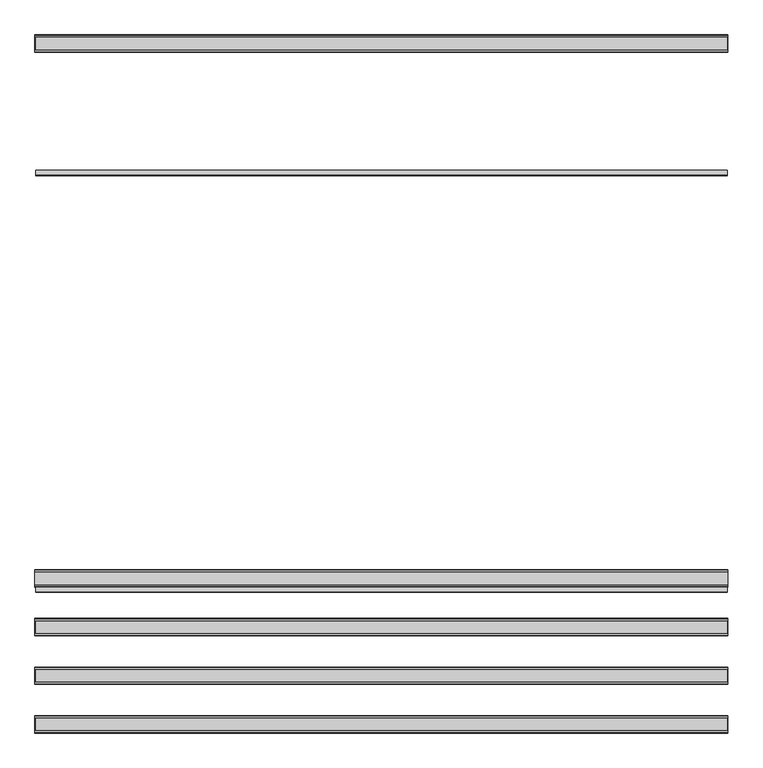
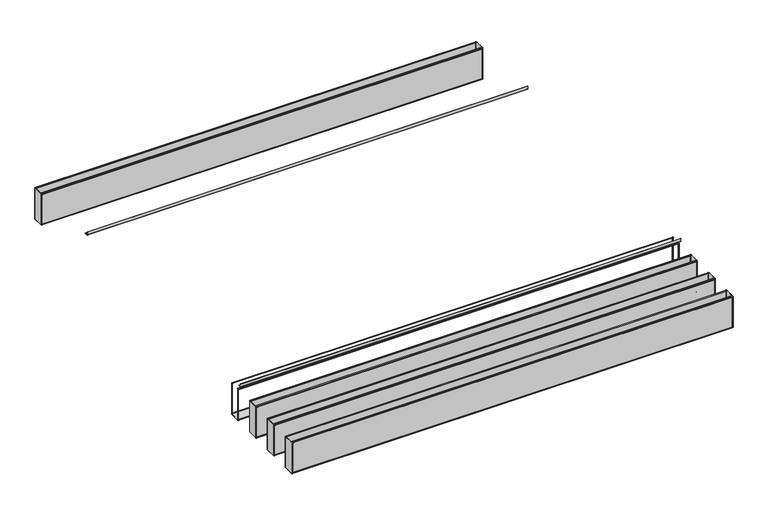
"""IFC4 building model written with IfcOpenShell, lengths in millimetres: proxy geometry, durlum_POLYLAM : durlum_POLYLAM 100."""

from ifc_helpers import new_model, si_unit, point, frame, frame_2d, origin, place, context, project, spatial, polyline, circle_curve, trimmed, segment, composite_curve, outline, extrude, source, transform, mapped, element, save
from ifc_brep_helpers import plane_surface, cylinder_surface, advanced_brep


def generic_models_2188c257(model_context):
    return source(origin(), model_context, "Body", "SolidModel", [
        advanced_brep(
        [(1995.0, -1072.0, 2016.9), (1995.0, -1082.0, 2016.9), (1995.0, -1082.0, 2015.9), (1995.0, -1071.0, 2015.9), (1995.0, -1071.0, 1717.9), (1995.0, -1169.0, 1717.9), (1995.0, -1169.0, 2015.8155735), (1995.0, -1158.0, 2015.8155735), (1995.0, -1158.0, 2016.9), (1995.0, -1168.0, 2016.9), (1995.0, -1170.0, 2014.9), (1995.0, -1170.0, 1718.9), (1995.0, -1168.0, 1716.9), (1995.0, -1072.0, 1716.9), (1995.0, -1070.0, 1718.9), (1995.0, -1070.0, 2014.9), (-1995.0, -1072.0, 2016.9), (-1995.0, -1070.0, 2014.9), (-1995.0, -1070.0, 1718.9), (-1995.0, -1072.0, 1716.9), (-1995.0, -1168.0, 1716.9), (-1995.0, -1170.0, 1718.9), (-1995.0, -1170.0, 2014.9), (-1995.0, -1168.0, 2016.9), (-1995.0, -1158.0, 2016.9), (-1995.0, -1158.0, 2015.8155735), (-1995.0, -1169.0, 2015.8155735), (-1995.0, -1169.0, 1717.9), (-1995.0, -1071.0, 1717.9), (-1995.0, -1071.0, 2015.9), (-1995.0, -1082.0, 2015.9), (-1995.0, -1082.0, 2016.9), (-1986.5, -1071.0, 2008.4), (1986.5, -1071.0, 2008.4), (1986.5, -1071.0, 1725.4), (-1986.5, -1071.0, 1725.4), (1986.5, -1169.0, 2008.4), (-1986.5, -1169.0, 2008.4), (-1986.5, -1169.0, 1725.4), (1986.5, -1169.0, 1725.4), (-1986.5, -1170.0, 2008.4), (1986.5, -1170.0, 2008.4), (1986.5, -1170.0, 1725.4), (-1986.5, -1170.0, 1725.4), (1986.5, -1070.0, 2008.4), (-1986.5, -1070.0, 2008.4), (-1986.5, -1070.0, 1725.4), (1986.5, -1070.0, 1725.4)],
        [
            (0, 1),
            (1, 2),
            (2, 3),
            (3, 4),
            (4, 5),
            (5, 6),
            (6, 7),
            (7, 8),
            (8, 9),
            (9, 10, circle_curve(frame((1995.0, -1168.0, 2014.9), z_axis=(1.0, 0.0, 0.0), x_axis=(0.0, 1.0, 0.0)), 2.0)),
            (10, 11),
            (11, 12, circle_curve(frame((1995.0, -1168.0, 1718.9), z_axis=(1.0, 0.0, 0.0), x_axis=(0.0, 1.0, 0.0)), 2.0)),
            (12, 13),
            (13, 14, circle_curve(frame((1995.0, -1072.0, 1718.9), z_axis=(1.0, 0.0, 0.0), x_axis=(0.0, 1.0, 0.0)), 2.0)),
            (14, 15),
            (15, 0, circle_curve(frame((1995.0, -1072.0, 2014.9), z_axis=(1.0, 0.0, 0.0), x_axis=(0.0, 1.0, 0.0)), 2.0)),
            (16, 17, circle_curve(frame((-1995.0, -1072.0, 2014.9), z_axis=(-1.0, 0.0, 0.0), x_axis=(0.0, 1.0, 0.0)), 2.0)),
            (17, 18),
            (18, 19, circle_curve(frame((-1995.0, -1072.0, 1718.9), z_axis=(-1.0, 0.0, 0.0), x_axis=(0.0, 1.0, 0.0)), 2.0)),
            (19, 20),
            (20, 21, circle_curve(frame((-1995.0, -1168.0, 1718.9), z_axis=(-1.0, 0.0, 0.0), x_axis=(0.0, 1.0, 0.0)), 2.0)),
            (21, 22),
            (22, 23, circle_curve(frame((-1995.0, -1168.0, 2014.9), z_axis=(-1.0, 0.0, 0.0), x_axis=(0.0, 1.0, 0.0)), 2.0)),
            (23, 24),
            (24, 25),
            (25, 26),
            (26, 27),
            (27, 28),
            (28, 29),
            (29, 30),
            (30, 31),
            (31, 16),
            (0, 16),
            (31, 1),
            (30, 2),
            (29, 3),
            (28, 4),
            (32, 33),
            (33, 34),
            (34, 35),
            (35, 32),
            (27, 5),
            (26, 6),
            (36, 37),
            (37, 38),
            (38, 39),
            (39, 36),
            (25, 7),
            (24, 8),
            (23, 9),
            (10, 22),
            (21, 11),
            (40, 41),
            (41, 42),
            (42, 43),
            (43, 40),
            (12, 20),
            (19, 13),
            (14, 18),
            (17, 15),
            (44, 45),
            (45, 46),
            (46, 47),
            (47, 44),
            (44, 33),
            (32, 45),
            (36, 41),
            (40, 37),
            (35, 46),
            (43, 38),
            (34, 47),
            (42, 39),
        ],
        [
            plane_surface(frame((1995.0, -1082.0, 2016.9), z_axis=(1.0, 0.0, 0.0), x_axis=(0.0, -1.0, 0.0))),
            plane_surface(frame((-1995.0, -1082.0, 2016.9), z_axis=(-1.0, 0.0, 0.0), x_axis=(0.0, 1.0, 0.0))),
            plane_surface(frame((1995.0, -1072.0, 2016.9), z_axis=(0.0, 0.0, 1.0), x_axis=(-1.0, 0.0, 0.0))),
            plane_surface(frame((1995.0, -1082.0, 2016.9), z_axis=(0.0, -1.0, 0.0), x_axis=(-1.0, 0.0, 0.0))),
            plane_surface(frame((1995.0, -1082.0, 2015.9), z_axis=(0.0, 0.0, -1.0), x_axis=(-1.0, 0.0, 0.0))),
            plane_surface(frame((1995.0, -1071.0, 2015.9), z_axis=(0.0, -1.0, 0.0), x_axis=(-1.0, 0.0, 0.0))),
            plane_surface(frame((1995.0, -1071.0, 1717.9), z_axis=(0.0, 0.0, 1.0), x_axis=(-1.0, 0.0, 0.0))),
            plane_surface(frame((1995.0, -1169.0, 1717.9), z_axis=(0.0, 1.0, 0.0), x_axis=(-1.0, 0.0, 0.0))),
            plane_surface(frame((1995.0, -1169.0, 2015.8155735), z_axis=(0.0, 0.0, -1.0), x_axis=(-1.0, 0.0, 0.0))),
            plane_surface(frame((1995.0, -1158.0, 2015.8155735), z_axis=(0.0, 1.0, 0.0), x_axis=(-1.0, 0.0, 0.0))),
            plane_surface(frame((1995.0, -1158.0, 2016.9), z_axis=(0.0, 0.0, 1.0), x_axis=(-1.0, 0.0, 0.0))),
            plane_surface(frame((1995.0, -1170.0, 2014.9), z_axis=(0.0, -1.0, 0.0), x_axis=(-1.0, 0.0, 0.0))),
            plane_surface(frame((1995.0, -1168.0, 1716.9), z_axis=(0.0, 0.0, -1.0), x_axis=(-1.0, 0.0, 0.0))),
            plane_surface(frame((1995.0, -1070.0, 1718.9), z_axis=(0.0, 1.0, 0.0), x_axis=(-1.0, 0.0, 0.0))),
            cylinder_surface(frame((-1995.0, -1168.0, 2014.9), z_axis=(1.0, 0.0, 0.0), x_axis=(0.0, 1.0, 0.0)), 2.0),
            cylinder_surface(frame((-1995.0, -1168.0, 1718.9), z_axis=(1.0, 0.0, 0.0), x_axis=(0.0, 1.0, 0.0)), 2.0),
            cylinder_surface(frame((-1995.0, -1072.0, 1718.9), z_axis=(1.0, 0.0, 0.0), x_axis=(0.0, 1.0, 0.0)), 2.0),
            cylinder_surface(frame((-1995.0, -1072.0, 2014.9), z_axis=(1.0, 0.0, 0.0), x_axis=(0.0, 1.0, 0.0)), 2.0),
            plane_surface(frame((1986.5, -1170.0, 2008.4), z_axis=(0.0, 0.0, -1.0), x_axis=(0.0, 1.0, 0.0))),
            plane_surface(frame((-1986.5, -1170.0, 2008.4), z_axis=(1.0, 0.0, 0.0), x_axis=(0.0, 1.0, 0.0))),
            plane_surface(frame((-1986.5, -1170.0, 1725.4), z_axis=(0.0, 0.0, 1.0), x_axis=(0.0, 1.0, 0.0))),
            plane_surface(frame((1986.5, -1170.0, 1725.4), z_axis=(-1.0, 0.0, 0.0), x_axis=(0.0, 1.0, 0.0))),
        ],
        [
            (0, [[1, 2, 3, 4, 5, 6, 7, 8, 9, 10, 11, 12, 13, 14, 15, 16]]),
            (1, [[17, 18, 19, 20, 21, 22, 23, 24, 25, 26, 27, 28, 29, 30, 31, 32]]),
            (2, [[-1, 33, -32, 34]]),
            (3, [[-2, -34, -31, 35]]),
            (4, [[-3, -35, -30, 36]]),
            (5, [[-4, -36, -29, 37], [38, 39, 40, 41]]),
            (6, [[-5, -37, -28, 42]]),
            (7, [[-6, -42, -27, 43], [44, 45, 46, 47]]),
            (8, [[-7, -43, -26, 48]]),
            (9, [[-8, -48, -25, 49]]),
            (10, [[-9, -49, -24, 50]]),
            (11, [[-11, 51, -22, 52], [53, 54, 55, 56]]),
            (12, [[-13, 57, -20, 58]]),
            (13, [[-15, 59, -18, 60], [61, 62, 63, 64]]),
            (14, [[-10, -50, -23, -51]]),
            (15, [[-12, -52, -21, -57]]),
            (16, [[-14, -58, -19, -59]]),
            (17, [[-16, -60, -17, -33]]),
            (18, [[65, -38, 66, -61]]),
            (18, [[67, -53, 68, -44]]),
            (19, [[-66, -41, 69, -62]]),
            (19, [[-68, -56, 70, -45]]),
            (20, [[-69, -40, 71, -63]]),
            (20, [[-70, -55, 72, -46]]),
            (21, [[-65, -64, -71, -39]]),
            (21, [[-67, -47, -72, -54]]),
        ],
    ),
        extrude(outline(polyline([(1986.5, -1351.0), (-1986.5, -1351.0), (-1986.5, -1350.0), (1986.5, -1350.0), (1986.5, -1351.0)])), frame((0.0, 0.0, 1725.4), z_axis=(0.0, 0.0, 1.0), x_axis=(1.0, 0.0, 0.0)), (0.0, 0.0, 1.0), 283.0),
        extrude(outline(polyline([(1986.5, -1450.0), (-1986.5, -1450.0), (-1986.5, -1449.0), (1986.5, -1449.0), (1986.5, -1450.0)])), frame((0.0, 0.0, 1725.4), z_axis=(0.0, 0.0, 1.0), x_axis=(1.0, 0.0, 0.0)), (0.0, 0.0, 1.0), 283.0),
        extrude(outline(polyline([(1993.0, -1351.0), (1995.0, -1351.0), (1995.0, -1449.0), (1993.0, -1449.0), (1993.0, -1351.0)])), frame((0.0, 0.0, 1717.9), z_axis=(0.0, 0.0, 1.0), x_axis=(1.0, 0.0, 0.0)), (0.0, 0.0, 1.0), 298.0),
        extrude(outline(polyline([(-1995.0, -1351.0), (-1993.0, -1351.0), (-1993.0, -1449.0), (-1995.0, -1449.0), (-1995.0, -1351.0)])), frame((0.0, 0.0, 1717.9), z_axis=(0.0, 0.0, 1.0), x_axis=(1.0, 0.0, 0.0)), (0.0, 0.0, 1.0), 298.0),
        advanced_brep(
        [(1995.0, -1352.0, 2016.9), (1995.0, -1362.0, 2016.9), (1995.0, -1362.0, 2015.9), (1995.0, -1351.0, 2015.9), (1995.0, -1351.0, 1717.9), (1995.0, -1449.0, 1717.9), (1995.0, -1449.0, 2015.8155735), (1995.0, -1438.0, 2015.8155735), (1995.0, -1438.0, 2016.9), (1995.0, -1448.0, 2016.9), (1995.0, -1450.0, 2014.9), (1995.0, -1450.0, 1718.9), (1995.0, -1448.0, 1716.9), (1995.0, -1352.0, 1716.9), (1995.0, -1350.0, 1718.9), (1995.0, -1350.0, 2014.9), (-1995.0, -1352.0, 2016.9), (-1995.0, -1350.0, 2014.9), (-1995.0, -1350.0, 1718.9), (-1995.0, -1352.0, 1716.9), (-1995.0, -1448.0, 1716.9), (-1995.0, -1450.0, 1718.9), (-1995.0, -1450.0, 2014.9), (-1995.0, -1448.0, 2016.9), (-1995.0, -1438.0, 2016.9), (-1995.0, -1438.0, 2015.8155735), (-1995.0, -1449.0, 2015.8155735), (-1995.0, -1449.0, 1717.9), (-1995.0, -1351.0, 1717.9), (-1995.0, -1351.0, 2015.9), (-1995.0, -1362.0, 2015.9), (-1995.0, -1362.0, 2016.9), (-1986.5, -1351.0, 2008.4), (1986.5, -1351.0, 2008.4), (1986.5, -1351.0, 1725.4), (-1986.5, -1351.0, 1725.4), (1986.5, -1449.0, 2008.4), (-1986.5, -1449.0, 2008.4), (-1986.5, -1449.0, 1725.4), (1986.5, -1449.0, 1725.4), (-1986.5, -1450.0, 2008.4), (1986.5, -1450.0, 2008.4), (1986.5, -1450.0, 1725.4), (-1986.5, -1450.0, 1725.4), (1986.5, -1350.0, 2008.4), (-1986.5, -1350.0, 2008.4), (-1986.5, -1350.0, 1725.4), (1986.5, -1350.0, 1725.4)],
        [
            (0, 1),
            (1, 2),
            (2, 3),
            (3, 4),
            (4, 5),
            (5, 6),
            (6, 7),
            (7, 8),
            (8, 9),
            (9, 10, circle_curve(frame((1995.0, -1448.0, 2014.9), z_axis=(1.0, 0.0, 0.0), x_axis=(0.0, 1.0, 0.0)), 2.0)),
            (10, 11),
            (11, 12, circle_curve(frame((1995.0, -1448.0, 1718.9), z_axis=(1.0, 0.0, 0.0), x_axis=(0.0, 1.0, 0.0)), 2.0)),
            (12, 13),
            (13, 14, circle_curve(frame((1995.0, -1352.0, 1718.9), z_axis=(1.0, 0.0, 0.0), x_axis=(0.0, 1.0, 0.0)), 2.0)),
            (14, 15),
            (15, 0, circle_curve(frame((1995.0, -1352.0, 2014.9), z_axis=(1.0, 0.0, 0.0), x_axis=(0.0, 1.0, 0.0)), 2.0)),
            (16, 17, circle_curve(frame((-1995.0, -1352.0, 2014.9), z_axis=(-1.0, 0.0, 0.0), x_axis=(0.0, 1.0, 0.0)), 2.0)),
            (17, 18),
            (18, 19, circle_curve(frame((-1995.0, -1352.0, 1718.9), z_axis=(-1.0, 0.0, 0.0), x_axis=(0.0, 1.0, 0.0)), 2.0)),
            (19, 20),
            (20, 21, circle_curve(frame((-1995.0, -1448.0, 1718.9), z_axis=(-1.0, 0.0, 0.0), x_axis=(0.0, 1.0, 0.0)), 2.0)),
            (21, 22),
            (22, 23, circle_curve(frame((-1995.0, -1448.0, 2014.9), z_axis=(-1.0, 0.0, 0.0), x_axis=(0.0, 1.0, 0.0)), 2.0)),
            (23, 24),
            (24, 25),
            (25, 26),
            (26, 27),
            (27, 28),
            (28, 29),
            (29, 30),
            (30, 31),
            (31, 16),
            (0, 16),
            (31, 1),
            (30, 2),
            (29, 3),
            (28, 4),
            (32, 33),
            (33, 34),
            (34, 35),
            (35, 32),
            (27, 5),
            (26, 6),
            (36, 37),
            (37, 38),
            (38, 39),
            (39, 36),
            (25, 7),
            (24, 8),
            (23, 9),
            (10, 22),
            (21, 11),
            (40, 41),
            (41, 42),
            (42, 43),
            (43, 40),
            (12, 20),
            (19, 13),
            (14, 18),
            (17, 15),
            (44, 45),
            (45, 46),
            (46, 47),
            (47, 44),
            (44, 33),
            (32, 45),
            (36, 41),
            (40, 37),
            (35, 46),
            (43, 38),
            (34, 47),
            (42, 39),
        ],
        [
            plane_surface(frame((1995.0, -1362.0, 2016.9), z_axis=(1.0, 0.0, 0.0), x_axis=(0.0, -1.0, 0.0))),
            plane_surface(frame((-1995.0, -1362.0, 2016.9), z_axis=(-1.0, 0.0, 0.0), x_axis=(0.0, 1.0, 0.0))),
            plane_surface(frame((1995.0, -1352.0, 2016.9), z_axis=(0.0, 0.0, 1.0), x_axis=(-1.0, 0.0, 0.0))),
            plane_surface(frame((1995.0, -1362.0, 2016.9), z_axis=(0.0, -1.0, 0.0), x_axis=(-1.0, 0.0, 0.0))),
            plane_surface(frame((1995.0, -1362.0, 2015.9), z_axis=(0.0, 0.0, -1.0), x_axis=(-1.0, 0.0, 0.0))),
            plane_surface(frame((1995.0, -1351.0, 2015.9), z_axis=(0.0, -1.0, 0.0), x_axis=(-1.0, 0.0, 0.0))),
            plane_surface(frame((1995.0, -1351.0, 1717.9), z_axis=(0.0, 0.0, 1.0), x_axis=(-1.0, 0.0, 0.0))),
            plane_surface(frame((1995.0, -1449.0, 1717.9), z_axis=(0.0, 1.0, 0.0), x_axis=(-1.0, 0.0, 0.0))),
            plane_surface(frame((1995.0, -1449.0, 2015.8155735), z_axis=(0.0, 0.0, -1.0), x_axis=(-1.0, 0.0, 0.0))),
            plane_surface(frame((1995.0, -1438.0, 2015.8155735), z_axis=(0.0, 1.0, 0.0), x_axis=(-1.0, 0.0, 0.0))),
            plane_surface(frame((1995.0, -1438.0, 2016.9), z_axis=(0.0, 0.0, 1.0), x_axis=(-1.0, 0.0, 0.0))),
            plane_surface(frame((1995.0, -1450.0, 2014.9), z_axis=(0.0, -1.0, 0.0), x_axis=(-1.0, 0.0, 0.0))),
            plane_surface(frame((1995.0, -1448.0, 1716.9), z_axis=(0.0, 0.0, -1.0), x_axis=(-1.0, 0.0, 0.0))),
            plane_surface(frame((1995.0, -1350.0, 1718.9), z_axis=(0.0, 1.0, 0.0), x_axis=(-1.0, 0.0, 0.0))),
            cylinder_surface(frame((-1995.0, -1448.0, 2014.9), z_axis=(1.0, 0.0, 0.0), x_axis=(0.0, 1.0, 0.0)), 2.0),
            cylinder_surface(frame((-1995.0, -1448.0, 1718.9), z_axis=(1.0, 0.0, 0.0), x_axis=(0.0, 1.0, 0.0)), 2.0),
            cylinder_surface(frame((-1995.0, -1352.0, 1718.9), z_axis=(1.0, 0.0, 0.0), x_axis=(0.0, 1.0, 0.0)), 2.0),
            cylinder_surface(frame((-1995.0, -1352.0, 2014.9), z_axis=(1.0, 0.0, 0.0), x_axis=(0.0, 1.0, 0.0)), 2.0),
            plane_surface(frame((1986.5, -1450.0, 2008.4), z_axis=(0.0, 0.0, -1.0), x_axis=(0.0, 1.0, 0.0))),
            plane_surface(frame((-1986.5, -1450.0, 2008.4), z_axis=(1.0, 0.0, 0.0), x_axis=(0.0, 1.0, 0.0))),
            plane_surface(frame((-1986.5, -1450.0, 1725.4), z_axis=(0.0, 0.0, 1.0), x_axis=(0.0, 1.0, 0.0))),
            plane_surface(frame((1986.5, -1450.0, 1725.4), z_axis=(-1.0, 0.0, 0.0), x_axis=(0.0, 1.0, 0.0))),
        ],
        [
            (0, [[1, 2, 3, 4, 5, 6, 7, 8, 9, 10, 11, 12, 13, 14, 15, 16]]),
            (1, [[17, 18, 19, 20, 21, 22, 23, 24, 25, 26, 27, 28, 29, 30, 31, 32]]),
            (2, [[-1, 33, -32, 34]]),
            (3, [[-2, -34, -31, 35]]),
            (4, [[-3, -35, -30, 36]]),
            (5, [[-4, -36, -29, 37], [38, 39, 40, 41]]),
            (6, [[-5, -37, -28, 42]]),
            (7, [[-6, -42, -27, 43], [44, 45, 46, 47]]),
            (8, [[-7, -43, -26, 48]]),
            (9, [[-8, -48, -25, 49]]),
            (10, [[-9, -49, -24, 50]]),
            (11, [[-11, 51, -22, 52], [53, 54, 55, 56]]),
            (12, [[-13, 57, -20, 58]]),
            (13, [[-15, 59, -18, 60], [61, 62, 63, 64]]),
            (14, [[-10, -50, -23, -51]]),
            (15, [[-12, -52, -21, -57]]),
            (16, [[-14, -58, -19, -59]]),
            (17, [[-16, -60, -17, -33]]),
            (18, [[65, -38, 66, -61]]),
            (18, [[67, -53, 68, -44]]),
            (19, [[-66, -41, 69, -62]]),
            (19, [[-68, -56, 70, -45]]),
            (20, [[-69, -40, 71, -63]]),
            (20, [[-70, -55, 72, -46]]),
            (21, [[-65, -64, -71, -39]]),
            (21, [[-67, -47, -72, -54]]),
        ],
    ),
        extrude(outline(polyline([(1986.5, -1631.0), (-1986.5, -1631.0), (-1986.5, -1630.0), (1986.5, -1630.0), (1986.5, -1631.0)])), frame((0.0, 0.0, 1725.4), z_axis=(0.0, 0.0, 1.0), x_axis=(1.0, 0.0, 0.0)), (0.0, 0.0, 1.0), 283.0),
        extrude(outline(polyline([(1986.5, -1730.0), (-1986.5, -1730.0), (-1986.5, -1729.0), (1986.5, -1729.0), (1986.5, -1730.0)])), frame((0.0, 0.0, 1725.4), z_axis=(0.0, 0.0, 1.0), x_axis=(1.0, 0.0, 0.0)), (0.0, 0.0, 1.0), 283.0),
        extrude(outline(polyline([(1993.0, -1631.0), (1995.0, -1631.0), (1995.0, -1729.0), (1993.0, -1729.0), (1993.0, -1631.0)])), frame((0.0, 0.0, 1717.9), z_axis=(0.0, 0.0, 1.0), x_axis=(1.0, 0.0, 0.0)), (0.0, 0.0, 1.0), 298.0),
        extrude(outline(polyline([(-1995.0, -1631.0), (-1993.0, -1631.0), (-1993.0, -1729.0), (-1995.0, -1729.0), (-1995.0, -1631.0)])), frame((0.0, 0.0, 1717.9), z_axis=(0.0, 0.0, 1.0), x_axis=(1.0, 0.0, 0.0)), (0.0, 0.0, 1.0), 298.0),
        advanced_brep(
        [(1995.0, -1632.0, 2016.9), (1995.0, -1642.0, 2016.9), (1995.0, -1642.0, 2015.9), (1995.0, -1631.0, 2015.9), (1995.0, -1631.0, 1717.9), (1995.0, -1729.0, 1717.9), (1995.0, -1729.0, 2015.8155735), (1995.0, -1718.0, 2015.8155735), (1995.0, -1718.0, 2016.9), (1995.0, -1728.0, 2016.9), (1995.0, -1730.0, 2014.9), (1995.0, -1730.0, 1718.9), (1995.0, -1728.0, 1716.9), (1995.0, -1632.0, 1716.9), (1995.0, -1630.0, 1718.9), (1995.0, -1630.0, 2014.9), (-1995.0, -1632.0, 2016.9), (-1995.0, -1630.0, 2014.9), (-1995.0, -1630.0, 1718.9), (-1995.0, -1632.0, 1716.9), (-1995.0, -1728.0, 1716.9), (-1995.0, -1730.0, 1718.9), (-1995.0, -1730.0, 2014.9), (-1995.0, -1728.0, 2016.9), (-1995.0, -1718.0, 2016.9), (-1995.0, -1718.0, 2015.8155735), (-1995.0, -1729.0, 2015.8155735), (-1995.0, -1729.0, 1717.9), (-1995.0, -1631.0, 1717.9), (-1995.0, -1631.0, 2015.9), (-1995.0, -1642.0, 2015.9), (-1995.0, -1642.0, 2016.9), (-1986.5, -1631.0, 2008.4), (1986.5, -1631.0, 2008.4), (1986.5, -1631.0, 1725.4), (-1986.5, -1631.0, 1725.4), (1986.5, -1729.0, 2008.4), (-1986.5, -1729.0, 2008.4), (-1986.5, -1729.0, 1725.4), (1986.5, -1729.0, 1725.4), (-1986.5, -1730.0, 2008.4), (1986.5, -1730.0, 2008.4), (1986.5, -1730.0, 1725.4), (-1986.5, -1730.0, 1725.4), (1986.5, -1630.0, 2008.4), (-1986.5, -1630.0, 2008.4), (-1986.5, -1630.0, 1725.4), (1986.5, -1630.0, 1725.4)],
        [
            (0, 1),
            (1, 2),
            (2, 3),
            (3, 4),
            (4, 5),
            (5, 6),
            (6, 7),
            (7, 8),
            (8, 9),
            (9, 10, circle_curve(frame((1995.0, -1728.0, 2014.9), z_axis=(1.0, 0.0, 0.0), x_axis=(0.0, 1.0, 0.0)), 2.0)),
            (10, 11),
            (11, 12, circle_curve(frame((1995.0, -1728.0, 1718.9), z_axis=(1.0, 0.0, 0.0), x_axis=(0.0, 1.0, 0.0)), 2.0)),
            (12, 13),
            (13, 14, circle_curve(frame((1995.0, -1632.0, 1718.9), z_axis=(1.0, 0.0, 0.0), x_axis=(0.0, 1.0, 0.0)), 2.0)),
            (14, 15),
            (15, 0, circle_curve(frame((1995.0, -1632.0, 2014.9), z_axis=(1.0, 0.0, 0.0), x_axis=(0.0, 1.0, 0.0)), 2.0)),
            (16, 17, circle_curve(frame((-1995.0, -1632.0, 2014.9), z_axis=(-1.0, 0.0, 0.0), x_axis=(0.0, 1.0, 0.0)), 2.0)),
            (17, 18),
            (18, 19, circle_curve(frame((-1995.0, -1632.0, 1718.9), z_axis=(-1.0, 0.0, 0.0), x_axis=(0.0, 1.0, 0.0)), 2.0)),
            (19, 20),
            (20, 21, circle_curve(frame((-1995.0, -1728.0, 1718.9), z_axis=(-1.0, 0.0, 0.0), x_axis=(0.0, 1.0, 0.0)), 2.0)),
            (21, 22),
            (22, 23, circle_curve(frame((-1995.0, -1728.0, 2014.9), z_axis=(-1.0, 0.0, 0.0), x_axis=(0.0, 1.0, 0.0)), 2.0)),
            (23, 24),
            (24, 25),
            (25, 26),
            (26, 27),
            (27, 28),
            (28, 29),
            (29, 30),
            (30, 31),
            (31, 16),
            (0, 16),
            (31, 1),
            (30, 2),
            (29, 3),
            (28, 4),
            (32, 33),
            (33, 34),
            (34, 35),
            (35, 32),
            (27, 5),
            (26, 6),
            (36, 37),
            (37, 38),
            (38, 39),
            (39, 36),
            (25, 7),
            (24, 8),
            (23, 9),
            (10, 22),
            (21, 11),
            (40, 41),
            (41, 42),
            (42, 43),
            (43, 40),
            (12, 20),
            (19, 13),
            (14, 18),
            (17, 15),
            (44, 45),
            (45, 46),
            (46, 47),
            (47, 44),
            (44, 33),
            (32, 45),
            (36, 41),
            (40, 37),
            (35, 46),
            (43, 38),
            (34, 47),
            (42, 39),
        ],
        [
            plane_surface(frame((1995.0, -1642.0, 2016.9), z_axis=(1.0, 0.0, 0.0), x_axis=(0.0, -1.0, 0.0))),
            plane_surface(frame((-1995.0, -1642.0, 2016.9), z_axis=(-1.0, 0.0, 0.0), x_axis=(0.0, 1.0, 0.0))),
            plane_surface(frame((1995.0, -1632.0, 2016.9), z_axis=(0.0, 0.0, 1.0), x_axis=(-1.0, 0.0, 0.0))),
            plane_surface(frame((1995.0, -1642.0, 2016.9), z_axis=(0.0, -1.0, 0.0), x_axis=(-1.0, 0.0, 0.0))),
            plane_surface(frame((1995.0, -1642.0, 2015.9), z_axis=(0.0, 0.0, -1.0), x_axis=(-1.0, 0.0, 0.0))),
            plane_surface(frame((1995.0, -1631.0, 2015.9), z_axis=(0.0, -1.0, 0.0), x_axis=(-1.0, 0.0, 0.0))),
            plane_surface(frame((1995.0, -1631.0, 1717.9), z_axis=(0.0, 0.0, 1.0), x_axis=(-1.0, 0.0, 0.0))),
            plane_surface(frame((1995.0, -1729.0, 1717.9), z_axis=(0.0, 1.0, 0.0), x_axis=(-1.0, 0.0, 0.0))),
            plane_surface(frame((1995.0, -1729.0, 2015.8155735), z_axis=(0.0, 0.0, -1.0), x_axis=(-1.0, 0.0, 0.0))),
            plane_surface(frame((1995.0, -1718.0, 2015.8155735), z_axis=(0.0, 1.0, 0.0), x_axis=(-1.0, 0.0, 0.0))),
            plane_surface(frame((1995.0, -1718.0, 2016.9), z_axis=(0.0, 0.0, 1.0), x_axis=(-1.0, 0.0, 0.0))),
            plane_surface(frame((1995.0, -1730.0, 2014.9), z_axis=(0.0, -1.0, 0.0), x_axis=(-1.0, 0.0, 0.0))),
            plane_surface(frame((1995.0, -1728.0, 1716.9), z_axis=(0.0, 0.0, -1.0), x_axis=(-1.0, 0.0, 0.0))),
            plane_surface(frame((1995.0, -1630.0, 1718.9), z_axis=(0.0, 1.0, 0.0), x_axis=(-1.0, 0.0, 0.0))),
            cylinder_surface(frame((-1995.0, -1728.0, 2014.9), z_axis=(1.0, 0.0, 0.0), x_axis=(0.0, 1.0, 0.0)), 2.0),
            cylinder_surface(frame((-1995.0, -1728.0, 1718.9), z_axis=(1.0, 0.0, 0.0), x_axis=(0.0, 1.0, 0.0)), 2.0),
            cylinder_surface(frame((-1995.0, -1632.0, 1718.9), z_axis=(1.0, 0.0, 0.0), x_axis=(0.0, 1.0, 0.0)), 2.0),
            cylinder_surface(frame((-1995.0, -1632.0, 2014.9), z_axis=(1.0, 0.0, 0.0), x_axis=(0.0, 1.0, 0.0)), 2.0),
            plane_surface(frame((1986.5, -1730.0, 2008.4), z_axis=(0.0, 0.0, -1.0), x_axis=(0.0, 1.0, 0.0))),
            plane_surface(frame((-1986.5, -1730.0, 2008.4), z_axis=(1.0, 0.0, 0.0), x_axis=(0.0, 1.0, 0.0))),
            plane_surface(frame((-1986.5, -1730.0, 1725.4), z_axis=(0.0, 0.0, 1.0), x_axis=(0.0, 1.0, 0.0))),
            plane_surface(frame((1986.5, -1730.0, 1725.4), z_axis=(-1.0, 0.0, 0.0), x_axis=(0.0, 1.0, 0.0))),
        ],
        [
            (0, [[1, 2, 3, 4, 5, 6, 7, 8, 9, 10, 11, 12, 13, 14, 15, 16]]),
            (1, [[17, 18, 19, 20, 21, 22, 23, 24, 25, 26, 27, 28, 29, 30, 31, 32]]),
            (2, [[-1, 33, -32, 34]]),
            (3, [[-2, -34, -31, 35]]),
            (4, [[-3, -35, -30, 36]]),
            (5, [[-4, -36, -29, 37], [38, 39, 40, 41]]),
            (6, [[-5, -37, -28, 42]]),
            (7, [[-6, -42, -27, 43], [44, 45, 46, 47]]),
            (8, [[-7, -43, -26, 48]]),
            (9, [[-8, -48, -25, 49]]),
            (10, [[-9, -49, -24, 50]]),
            (11, [[-11, 51, -22, 52], [53, 54, 55, 56]]),
            (12, [[-13, 57, -20, 58]]),
            (13, [[-15, 59, -18, 60], [61, 62, 63, 64]]),
            (14, [[-10, -50, -23, -51]]),
            (15, [[-12, -52, -21, -57]]),
            (16, [[-14, -58, -19, -59]]),
            (17, [[-16, -60, -17, -33]]),
            (18, [[65, -38, 66, -61]]),
            (18, [[67, -53, 68, -44]]),
            (19, [[-66, -41, 69, -62]]),
            (19, [[-68, -56, 70, -45]]),
            (20, [[-69, -40, 71, -63]]),
            (20, [[-70, -55, 72, -46]]),
            (21, [[-65, -64, -71, -39]]),
            (21, [[-67, -47, -72, -54]]),
        ],
    ),
        extrude(outline(polyline([(1986.5, 2009.0), (-1986.5, 2009.0), (-1986.5, 2010.0), (1986.5, 2010.0), (1986.5, 2009.0)])), frame((0.0, 0.0, 1725.4), z_axis=(0.0, 0.0, 1.0), x_axis=(1.0, 0.0, 0.0)), (0.0, 0.0, 1.0), 283.0),
        extrude(outline(polyline([(1986.5, 1910.0), (-1986.5, 1910.0), (-1986.5, 1911.0), (1986.5, 1911.0), (1986.5, 1910.0)])), frame((0.0, 0.0, 1725.4), z_axis=(0.0, 0.0, 1.0), x_axis=(1.0, 0.0, 0.0)), (0.0, 0.0, 1.0), 283.0),
        extrude(outline(polyline([(1993.0, 2009.0), (1995.0, 2009.0), (1995.0, 1911.0), (1993.0, 1911.0), (1993.0, 2009.0)])), frame((0.0, 0.0, 1717.9), z_axis=(0.0, 0.0, 1.0), x_axis=(1.0, 0.0, 0.0)), (0.0, 0.0, 1.0), 298.0),
        extrude(outline(polyline([(-1995.0, 2009.0), (-1993.0, 2009.0), (-1993.0, 1911.0), (-1995.0, 1911.0), (-1995.0, 2009.0)])), frame((0.0, 0.0, 1717.9), z_axis=(0.0, 0.0, 1.0), x_axis=(1.0, 0.0, 0.0)), (0.0, 0.0, 1.0), 298.0),
        advanced_brep(
        [(1995.0, 2008.0, 2016.9), (1995.0, 1998.0, 2016.9), (1995.0, 1998.0, 2015.9), (1995.0, 2009.0, 2015.9), (1995.0, 2009.0, 1717.9), (1995.0, 1911.0, 1717.9), (1995.0, 1911.0, 2015.8155735), (1995.0, 1922.0, 2015.8155735), (1995.0, 1922.0, 2016.9), (1995.0, 1912.0, 2016.9), (1995.0, 1910.0, 2014.9), (1995.0, 1910.0, 1718.9), (1995.0, 1912.0, 1716.9), (1995.0, 2008.0, 1716.9), (1995.0, 2010.0, 1718.9), (1995.0, 2010.0, 2014.9), (-1995.0, 2008.0, 2016.9), (-1995.0, 2010.0, 2014.9), (-1995.0, 2010.0, 1718.9), (-1995.0, 2008.0, 1716.9), (-1995.0, 1912.0, 1716.9), (-1995.0, 1910.0, 1718.9), (-1995.0, 1910.0, 2014.9), (-1995.0, 1912.0, 2016.9), (-1995.0, 1922.0, 2016.9), (-1995.0, 1922.0, 2015.8155735), (-1995.0, 1911.0, 2015.8155735), (-1995.0, 1911.0, 1717.9), (-1995.0, 2009.0, 1717.9), (-1995.0, 2009.0, 2015.9), (-1995.0, 1998.0, 2015.9), (-1995.0, 1998.0, 2016.9), (-1986.5, 2009.0, 2008.4), (1986.5, 2009.0, 2008.4), (1986.5, 2009.0, 1725.4), (-1986.5, 2009.0, 1725.4), (1986.5, 1911.0, 2008.4), (-1986.5, 1911.0, 2008.4), (-1986.5, 1911.0, 1725.4), (1986.5, 1911.0, 1725.4), (-1986.5, 1910.0, 2008.4), (1986.5, 1910.0, 2008.4), (1986.5, 1910.0, 1725.4), (-1986.5, 1910.0, 1725.4), (1986.5, 2010.0, 2008.4), (-1986.5, 2010.0, 2008.4), (-1986.5, 2010.0, 1725.4), (1986.5, 2010.0, 1725.4)],
        [
            (0, 1),
            (1, 2),
            (2, 3),
            (3, 4),
            (4, 5),
            (5, 6),
            (6, 7),
            (7, 8),
            (8, 9),
            (9, 10, circle_curve(frame((1995.0, 1912.0, 2014.9), z_axis=(1.0, 0.0, 0.0), x_axis=(0.0, 1.0, 0.0)), 2.0)),
            (10, 11),
            (11, 12, circle_curve(frame((1995.0, 1912.0, 1718.9), z_axis=(1.0, 0.0, 0.0), x_axis=(0.0, 1.0, 0.0)), 2.0)),
            (12, 13),
            (13, 14, circle_curve(frame((1995.0, 2008.0, 1718.9), z_axis=(1.0, 0.0, 0.0), x_axis=(0.0, 1.0, 0.0)), 2.0)),
            (14, 15),
            (15, 0, circle_curve(frame((1995.0, 2008.0, 2014.9), z_axis=(1.0, 0.0, 0.0), x_axis=(0.0, 1.0, 0.0)), 2.0)),
            (16, 17, circle_curve(frame((-1995.0, 2008.0, 2014.9), z_axis=(-1.0, 0.0, 0.0), x_axis=(0.0, 1.0, 0.0)), 2.0)),
            (17, 18),
            (18, 19, circle_curve(frame((-1995.0, 2008.0, 1718.9), z_axis=(-1.0, 0.0, 0.0), x_axis=(0.0, 1.0, 0.0)), 2.0)),
            (19, 20),
            (20, 21, circle_curve(frame((-1995.0, 1912.0, 1718.9), z_axis=(-1.0, 0.0, 0.0), x_axis=(0.0, 1.0, 0.0)), 2.0)),
            (21, 22),
            (22, 23, circle_curve(frame((-1995.0, 1912.0, 2014.9), z_axis=(-1.0, 0.0, 0.0), x_axis=(0.0, 1.0, 0.0)), 2.0)),
            (23, 24),
            (24, 25),
            (25, 26),
            (26, 27),
            (27, 28),
            (28, 29),
            (29, 30),
            (30, 31),
            (31, 16),
            (0, 16),
            (31, 1),
            (30, 2),
            (29, 3),
            (28, 4),
            (32, 33),
            (33, 34),
            (34, 35),
            (35, 32),
            (27, 5),
            (26, 6),
            (36, 37),
            (37, 38),
            (38, 39),
            (39, 36),
            (25, 7),
            (24, 8),
            (23, 9),
            (10, 22),
            (21, 11),
            (40, 41),
            (41, 42),
            (42, 43),
            (43, 40),
            (12, 20),
            (19, 13),
            (14, 18),
            (17, 15),
            (44, 45),
            (45, 46),
            (46, 47),
            (47, 44),
            (44, 33),
            (32, 45),
            (36, 41),
            (40, 37),
            (35, 46),
            (43, 38),
            (34, 47),
            (42, 39),
        ],
        [
            plane_surface(frame((1995.0, 1998.0, 2016.9), z_axis=(1.0, 0.0, 0.0), x_axis=(0.0, -1.0, 0.0))),
            plane_surface(frame((-1995.0, 1998.0, 2016.9), z_axis=(-1.0, 0.0, 0.0), x_axis=(0.0, 1.0, 0.0))),
            plane_surface(frame((1995.0, 2008.0, 2016.9), z_axis=(0.0, 0.0, 1.0), x_axis=(-1.0, 0.0, 0.0))),
            plane_surface(frame((1995.0, 1998.0, 2016.9), z_axis=(0.0, -1.0, 0.0), x_axis=(-1.0, 0.0, 0.0))),
            plane_surface(frame((1995.0, 1998.0, 2015.9), z_axis=(0.0, 0.0, -1.0), x_axis=(-1.0, 0.0, 0.0))),
            plane_surface(frame((1995.0, 2009.0, 2015.9), z_axis=(0.0, -1.0, 0.0), x_axis=(-1.0, 0.0, 0.0))),
            plane_surface(frame((1995.0, 2009.0, 1717.9), z_axis=(0.0, 0.0, 1.0), x_axis=(-1.0, 0.0, 0.0))),
            plane_surface(frame((1995.0, 1911.0, 1717.9), z_axis=(0.0, 1.0, 0.0), x_axis=(-1.0, 0.0, 0.0))),
            plane_surface(frame((1995.0, 1911.0, 2015.8155735), z_axis=(0.0, 0.0, -1.0), x_axis=(-1.0, 0.0, 0.0))),
            plane_surface(frame((1995.0, 1922.0, 2015.8155735), z_axis=(0.0, 1.0, 0.0), x_axis=(-1.0, 0.0, 0.0))),
            plane_surface(frame((1995.0, 1922.0, 2016.9), z_axis=(0.0, 0.0, 1.0), x_axis=(-1.0, 0.0, 0.0))),
            plane_surface(frame((1995.0, 1910.0, 2014.9), z_axis=(0.0, -1.0, 0.0), x_axis=(-1.0, 0.0, 0.0))),
            plane_surface(frame((1995.0, 1912.0, 1716.9), z_axis=(0.0, 0.0, -1.0), x_axis=(-1.0, 0.0, 0.0))),
            plane_surface(frame((1995.0, 2010.0, 1718.9), z_axis=(0.0, 1.0, 0.0), x_axis=(-1.0, 0.0, 0.0))),
            cylinder_surface(frame((-1995.0, 1912.0, 2014.9), z_axis=(1.0, 0.0, 0.0), x_axis=(0.0, 1.0, 0.0)), 2.0),
            cylinder_surface(frame((-1995.0, 1912.0, 1718.9), z_axis=(1.0, 0.0, 0.0), x_axis=(0.0, 1.0, 0.0)), 2.0),
            cylinder_surface(frame((-1995.0, 2008.0, 1718.9), z_axis=(1.0, 0.0, 0.0), x_axis=(0.0, 1.0, 0.0)), 2.0),
            cylinder_surface(frame((-1995.0, 2008.0, 2014.9), z_axis=(1.0, 0.0, 0.0), x_axis=(0.0, 1.0, 0.0)), 2.0),
            plane_surface(frame((1986.5, 1910.0, 2008.4), z_axis=(0.0, 0.0, -1.0), x_axis=(0.0, 1.0, 0.0))),
            plane_surface(frame((-1986.5, 1910.0, 2008.4), z_axis=(1.0, 0.0, 0.0), x_axis=(0.0, 1.0, 0.0))),
            plane_surface(frame((-1986.5, 1910.0, 1725.4), z_axis=(0.0, 0.0, 1.0), x_axis=(0.0, 1.0, 0.0))),
            plane_surface(frame((1986.5, 1910.0, 1725.4), z_axis=(-1.0, 0.0, 0.0), x_axis=(0.0, 1.0, 0.0))),
        ],
        [
            (0, [[1, 2, 3, 4, 5, 6, 7, 8, 9, 10, 11, 12, 13, 14, 15, 16]]),
            (1, [[17, 18, 19, 20, 21, 22, 23, 24, 25, 26, 27, 28, 29, 30, 31, 32]]),
            (2, [[-1, 33, -32, 34]]),
            (3, [[-2, -34, -31, 35]]),
            (4, [[-3, -35, -30, 36]]),
            (5, [[-4, -36, -29, 37], [38, 39, 40, 41]]),
            (6, [[-5, -37, -28, 42]]),
            (7, [[-6, -42, -27, 43], [44, 45, 46, 47]]),
            (8, [[-7, -43, -26, 48]]),
            (9, [[-8, -48, -25, 49]]),
            (10, [[-9, -49, -24, 50]]),
            (11, [[-11, 51, -22, 52], [53, 54, 55, 56]]),
            (12, [[-13, 57, -20, 58]]),
            (13, [[-15, 59, -18, 60], [61, 62, 63, 64]]),
            (14, [[-10, -50, -23, -51]]),
            (15, [[-12, -52, -21, -57]]),
            (16, [[-14, -58, -19, -59]]),
            (17, [[-16, -60, -17, -33]]),
            (18, [[65, -38, 66, -61]]),
            (18, [[67, -53, 68, -44]]),
            (19, [[-66, -41, 69, -62]]),
            (19, [[-68, -56, 70, -45]]),
            (20, [[-69, -40, 71, -63]]),
            (20, [[-70, -55, 72, -46]]),
            (21, [[-65, -64, -71, -39]]),
            (21, [[-67, -47, -72, -54]]),
        ],
    ),
        extrude(outline(polyline([(1986.5, -1911.0), (-1986.5, -1911.0), (-1986.5, -1910.0), (1986.5, -1910.0), (1986.5, -1911.0)])), frame((0.0, 0.0, 1725.4), z_axis=(0.0, 0.0, 1.0), x_axis=(1.0, 0.0, 0.0)), (0.0, 0.0, 1.0), 283.0),
        extrude(outline(polyline([(1986.5, -2010.0), (-1986.5, -2010.0), (-1986.5, -2009.0), (1986.5, -2009.0), (1986.5, -2010.0)])), frame((0.0, 0.0, 1725.4), z_axis=(0.0, 0.0, 1.0), x_axis=(1.0, 0.0, 0.0)), (0.0, 0.0, 1.0), 283.0),
        extrude(outline(polyline([(1993.0, -1911.0), (1995.0, -1911.0), (1995.0, -2009.0), (1993.0, -2009.0), (1993.0, -1911.0)])), frame((0.0, 0.0, 1717.9), z_axis=(0.0, 0.0, 1.0), x_axis=(1.0, 0.0, 0.0)), (0.0, 0.0, 1.0), 298.0),
        extrude(outline(polyline([(-1995.0, -1911.0), (-1993.0, -1911.0), (-1993.0, -2009.0), (-1995.0, -2009.0), (-1995.0, -1911.0)])), frame((0.0, 0.0, 1717.9), z_axis=(0.0, 0.0, 1.0), x_axis=(1.0, 0.0, 0.0)), (0.0, 0.0, 1.0), 298.0),
        advanced_brep(
        [(1995.0, -1912.0, 2016.9), (1995.0, -1922.0, 2016.9), (1995.0, -1922.0, 2015.9), (1995.0, -1911.0, 2015.9), (1995.0, -1911.0, 1717.9), (1995.0, -2009.0, 1717.9), (1995.0, -2009.0, 2015.8155735), (1995.0, -1998.0, 2015.8155735), (1995.0, -1998.0, 2016.9), (1995.0, -2008.0, 2016.9), (1995.0, -2010.0, 2014.9), (1995.0, -2010.0, 1718.9), (1995.0, -2008.0, 1716.9), (1995.0, -1912.0, 1716.9), (1995.0, -1910.0, 1718.9), (1995.0, -1910.0, 2014.9), (-1995.0, -1912.0, 2016.9), (-1995.0, -1910.0, 2014.9), (-1995.0, -1910.0, 1718.9), (-1995.0, -1912.0, 1716.9), (-1995.0, -2008.0, 1716.9), (-1995.0, -2010.0, 1718.9), (-1995.0, -2010.0, 2014.9), (-1995.0, -2008.0, 2016.9), (-1995.0, -1998.0, 2016.9), (-1995.0, -1998.0, 2015.8155735), (-1995.0, -2009.0, 2015.8155735), (-1995.0, -2009.0, 1717.9), (-1995.0, -1911.0, 1717.9), (-1995.0, -1911.0, 2015.9), (-1995.0, -1922.0, 2015.9), (-1995.0, -1922.0, 2016.9), (-1986.5, -1911.0, 2008.4), (1986.5, -1911.0, 2008.4), (1986.5, -1911.0, 1725.4), (-1986.5, -1911.0, 1725.4), (1986.5, -2009.0, 2008.4), (-1986.5, -2009.0, 2008.4), (-1986.5, -2009.0, 1725.4), (1986.5, -2009.0, 1725.4), (-1986.5, -2010.0, 2008.4), (1986.5, -2010.0, 2008.4), (1986.5, -2010.0, 1725.4), (-1986.5, -2010.0, 1725.4), (1986.5, -1910.0, 2008.4), (-1986.5, -1910.0, 2008.4), (-1986.5, -1910.0, 1725.4), (1986.5, -1910.0, 1725.4)],
        [
            (0, 1),
            (1, 2),
            (2, 3),
            (3, 4),
            (4, 5),
            (5, 6),
            (6, 7),
            (7, 8),
            (8, 9),
            (9, 10, circle_curve(frame((1995.0, -2008.0, 2014.9), z_axis=(1.0, 0.0, 0.0), x_axis=(0.0, 1.0, 0.0)), 2.0)),
            (10, 11),
            (11, 12, circle_curve(frame((1995.0, -2008.0, 1718.9), z_axis=(1.0, 0.0, 0.0), x_axis=(0.0, 1.0, 0.0)), 2.0)),
            (12, 13),
            (13, 14, circle_curve(frame((1995.0, -1912.0, 1718.9), z_axis=(1.0, 0.0, 0.0), x_axis=(0.0, 1.0, 0.0)), 2.0)),
            (14, 15),
            (15, 0, circle_curve(frame((1995.0, -1912.0, 2014.9), z_axis=(1.0, 0.0, 0.0), x_axis=(0.0, 1.0, 0.0)), 2.0)),
            (16, 17, circle_curve(frame((-1995.0, -1912.0, 2014.9), z_axis=(-1.0, 0.0, 0.0), x_axis=(0.0, 1.0, 0.0)), 2.0)),
            (17, 18),
            (18, 19, circle_curve(frame((-1995.0, -1912.0, 1718.9), z_axis=(-1.0, 0.0, 0.0), x_axis=(0.0, 1.0, 0.0)), 2.0)),
            (19, 20),
            (20, 21, circle_curve(frame((-1995.0, -2008.0, 1718.9), z_axis=(-1.0, 0.0, 0.0), x_axis=(0.0, 1.0, 0.0)), 2.0)),
            (21, 22),
            (22, 23, circle_curve(frame((-1995.0, -2008.0, 2014.9), z_axis=(-1.0, 0.0, 0.0), x_axis=(0.0, 1.0, 0.0)), 2.0)),
            (23, 24),
            (24, 25),
            (25, 26),
            (26, 27),
            (27, 28),
            (28, 29),
            (29, 30),
            (30, 31),
            (31, 16),
            (0, 16),
            (31, 1),
            (30, 2),
            (29, 3),
            (28, 4),
            (32, 33),
            (33, 34),
            (34, 35),
            (35, 32),
            (27, 5),
            (26, 6),
            (36, 37),
            (37, 38),
            (38, 39),
            (39, 36),
            (25, 7),
            (24, 8),
            (23, 9),
            (10, 22),
            (21, 11),
            (40, 41),
            (41, 42),
            (42, 43),
            (43, 40),
            (12, 20),
            (19, 13),
            (14, 18),
            (17, 15),
            (44, 45),
            (45, 46),
            (46, 47),
            (47, 44),
            (44, 33),
            (32, 45),
            (36, 41),
            (40, 37),
            (35, 46),
            (43, 38),
            (34, 47),
            (42, 39),
        ],
        [
            plane_surface(frame((1995.0, -1922.0, 2016.9), z_axis=(1.0, 0.0, 0.0), x_axis=(0.0, -1.0, 0.0))),
            plane_surface(frame((-1995.0, -1922.0, 2016.9), z_axis=(-1.0, 0.0, 0.0), x_axis=(0.0, 1.0, 0.0))),
            plane_surface(frame((1995.0, -1912.0, 2016.9), z_axis=(0.0, 0.0, 1.0), x_axis=(-1.0, 0.0, 0.0))),
            plane_surface(frame((1995.0, -1922.0, 2016.9), z_axis=(0.0, -1.0, 0.0), x_axis=(-1.0, 0.0, 0.0))),
            plane_surface(frame((1995.0, -1922.0, 2015.9), z_axis=(0.0, 0.0, -1.0), x_axis=(-1.0, 0.0, 0.0))),
            plane_surface(frame((1995.0, -1911.0, 2015.9), z_axis=(0.0, -1.0, 0.0), x_axis=(-1.0, 0.0, 0.0))),
            plane_surface(frame((1995.0, -1911.0, 1717.9), z_axis=(0.0, 0.0, 1.0), x_axis=(-1.0, 0.0, 0.0))),
            plane_surface(frame((1995.0, -2009.0, 1717.9), z_axis=(0.0, 1.0, 0.0), x_axis=(-1.0, 0.0, 0.0))),
            plane_surface(frame((1995.0, -2009.0, 2015.8155735), z_axis=(0.0, 0.0, -1.0), x_axis=(-1.0, 0.0, 0.0))),
            plane_surface(frame((1995.0, -1998.0, 2015.8155735), z_axis=(0.0, 1.0, 0.0), x_axis=(-1.0, 0.0, 0.0))),
            plane_surface(frame((1995.0, -1998.0, 2016.9), z_axis=(0.0, 0.0, 1.0), x_axis=(-1.0, 0.0, 0.0))),
            plane_surface(frame((1995.0, -2010.0, 2014.9), z_axis=(0.0, -1.0, 0.0), x_axis=(-1.0, 0.0, 0.0))),
            plane_surface(frame((1995.0, -2008.0, 1716.9), z_axis=(0.0, 0.0, -1.0), x_axis=(-1.0, 0.0, 0.0))),
            plane_surface(frame((1995.0, -1910.0, 1718.9), z_axis=(0.0, 1.0, 0.0), x_axis=(-1.0, 0.0, 0.0))),
            cylinder_surface(frame((-1995.0, -2008.0, 2014.9), z_axis=(1.0, 0.0, 0.0), x_axis=(0.0, 1.0, 0.0)), 2.0),
            cylinder_surface(frame((-1995.0, -2008.0, 1718.9), z_axis=(1.0, 0.0, 0.0), x_axis=(0.0, 1.0, 0.0)), 2.0),
            cylinder_surface(frame((-1995.0, -1912.0, 1718.9), z_axis=(1.0, 0.0, 0.0), x_axis=(0.0, 1.0, 0.0)), 2.0),
            cylinder_surface(frame((-1995.0, -1912.0, 2014.9), z_axis=(1.0, 0.0, 0.0), x_axis=(0.0, 1.0, 0.0)), 2.0),
            plane_surface(frame((1986.5, -2010.0, 2008.4), z_axis=(0.0, 0.0, -1.0), x_axis=(0.0, 1.0, 0.0))),
            plane_surface(frame((-1986.5, -2010.0, 2008.4), z_axis=(1.0, 0.0, 0.0), x_axis=(0.0, 1.0, 0.0))),
            plane_surface(frame((-1986.5, -2010.0, 1725.4), z_axis=(0.0, 0.0, 1.0), x_axis=(0.0, 1.0, 0.0))),
            plane_surface(frame((1986.5, -2010.0, 1725.4), z_axis=(-1.0, 0.0, 0.0), x_axis=(0.0, 1.0, 0.0))),
        ],
        [
            (0, [[1, 2, 3, 4, 5, 6, 7, 8, 9, 10, 11, 12, 13, 14, 15, 16]]),
            (1, [[17, 18, 19, 20, 21, 22, 23, 24, 25, 26, 27, 28, 29, 30, 31, 32]]),
            (2, [[-1, 33, -32, 34]]),
            (3, [[-2, -34, -31, 35]]),
            (4, [[-3, -35, -30, 36]]),
            (5, [[-4, -36, -29, 37], [38, 39, 40, 41]]),
            (6, [[-5, -37, -28, 42]]),
            (7, [[-6, -42, -27, 43], [44, 45, 46, 47]]),
            (8, [[-7, -43, -26, 48]]),
            (9, [[-8, -48, -25, 49]]),
            (10, [[-9, -49, -24, 50]]),
            (11, [[-11, 51, -22, 52], [53, 54, 55, 56]]),
            (12, [[-13, 57, -20, 58]]),
            (13, [[-15, 59, -18, 60], [61, 62, 63, 64]]),
            (14, [[-10, -50, -23, -51]]),
            (15, [[-12, -52, -21, -57]]),
            (16, [[-14, -58, -19, -59]]),
            (17, [[-16, -60, -17, -33]]),
            (18, [[65, -38, 66, -61]]),
            (18, [[67, -53, 68, -44]]),
            (19, [[-66, -41, 69, -62]]),
            (19, [[-68, -56, 70, -45]]),
            (20, [[-69, -40, 71, -63]]),
            (20, [[-70, -55, 72, -46]]),
            (21, [[-65, -64, -71, -39]]),
            (21, [[-67, -47, -72, -54]]),
        ],
    ),
        extrude(outline(composite_curve([segment(polyline([(-1198.0, 2079.9), (-1198.0, 2054.0)]), True, "CONTINUOUS"), segment(trimmed(circle_curve(frame_2d((-1196.0, 2054.0)), 2.0), [point((-1198.0, 2054.0))], [point((-1196.0, 2052.0))], True, "CARTESIAN"), True, "CONTINUOUS"), segment(polyline([(-1196.0, 2052.0), (-1170.1, 2052.0), (-1170.1, 2050.0), (-1196.0, 2050.0)]), True, "CONTINUOUS"), segment(trimmed(circle_curve(frame_2d((-1196.0, 2054.0)), 4.0), [point((-1196.0, 2050.0))], [point((-1200.0, 2054.0))], False, "CARTESIAN"), True, "CONTINUOUS"), segment(polyline([(-1200.0, 2054.0), (-1200.0, 2079.9), (-1198.0, 2079.9)]), True, "CONTINUOUS")], self_intersect=False)), frame((-1990.0, 0.0, 0.0), z_axis=(1.0, 0.0, 0.0), x_axis=(0.0, 1.0, 0.0)), (0.0, 0.0, 1.0), 3980.0),
        extrude(outline(composite_curve([segment(polyline([(1202.0, 2079.9), (1202.0, 2054.0)]), True, "CONTINUOUS"), segment(trimmed(circle_curve(frame_2d((1204.0, 2054.0)), 2.0), [point((1202.0, 2054.0))], [point((1204.0, 2052.0))], True, "CARTESIAN"), True, "CONTINUOUS"), segment(polyline([(1204.0, 2052.0), (1229.9, 2052.0), (1229.9, 2050.0), (1204.0, 2050.0)]), True, "CONTINUOUS"), segment(trimmed(circle_curve(frame_2d((1204.0, 2054.0)), 4.0), [point((1204.0, 2050.0))], [point((1200.0, 2054.0))], False, "CARTESIAN"), True, "CONTINUOUS"), segment(polyline([(1200.0, 2054.0), (1200.0, 2079.9), (1202.0, 2079.9)]), True, "CONTINUOUS")], self_intersect=False)), frame((-1990.0, 0.0, 0.0), z_axis=(1.0, 0.0, 0.0), x_axis=(0.0, 1.0, 0.0)), (0.0, 0.0, 1.0), 3980.0),
    ])


if __name__ == "__main__":
    model = new_model("IFC4")
    model_context = context("Model", 3, world=origin())
    ifc_project = project(units=[si_unit("LENGTHUNIT", "METRE", prefix="MILLI")], contexts=[model_context])
    site = spatial("IfcSite", under=ifc_project)
    building = spatial("IfcBuilding", under=site)
    placement = place(None, origin())
    generic_models_shape = generic_models_2188c257(model_context)
    element("IfcBuildingElementProxy", 1, Name="durlum_POLYLAM : durlum_POLYLAM 100", ObjectType="durlum_POLYLAM : durlum_POLYLAM 100", at=placement, inside=building, context=model_context, shape_type="MappedRepresentation", body=[
        mapped(generic_models_shape, transform((0.0, 0.0, 0.0), x_axis=(1.0, 0.0, 0.0), y_axis=(0.0, 1.0, 0.0), z_axis=(0.0, 0.0, 1.0))),
    ])
    save(model, "model.ifc")
